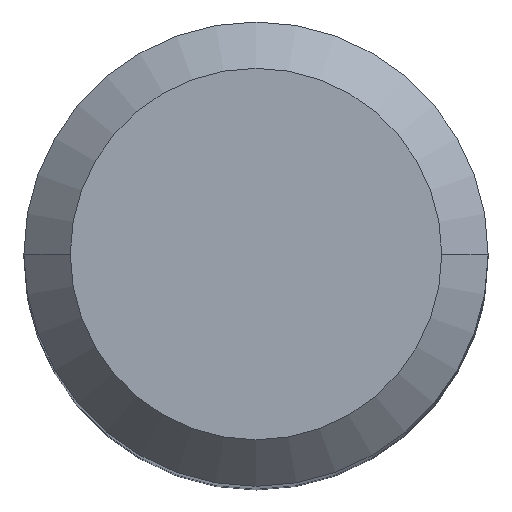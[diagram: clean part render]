
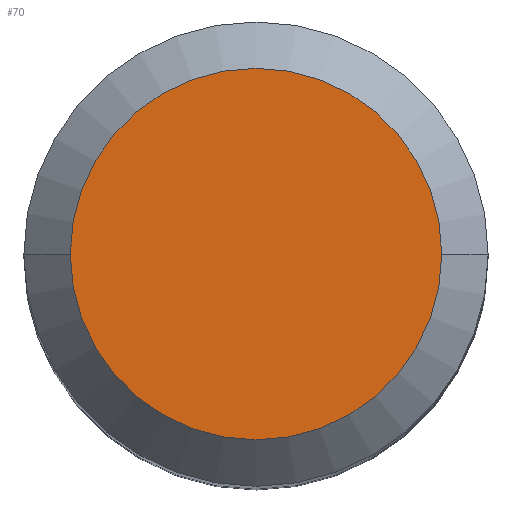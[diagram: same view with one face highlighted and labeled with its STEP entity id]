
A CAD part, top view. The second image highlights one B-rep face of the part: STEP entity #70.
In plain terms, the highlighted planar face has unit normal (0, 0, 1).
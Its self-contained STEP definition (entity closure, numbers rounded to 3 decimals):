
#15 = CARTESIAN_POINT ( 'NONE',  ( 0., 0., 0. ) ) ;
#18 = DIRECTION ( 'NONE',  ( 0., 0., 1. ) ) ;
#60 = CARTESIAN_POINT ( 'NONE',  ( 0., 0., 0. ) ) ;
#62 = CIRCLE ( 'NONE', #345, 6.4 ) ;
#68 = AXIS2_PLACEMENT_3D ( 'NONE', #60, #161, #88 ) ;
#70 = ADVANCED_FACE ( 'NONE', ( #329 ), #73, .T. ) ;
#73 = PLANE ( 'NONE',  #351 ) ;
#77 = DIRECTION ( 'NONE',  ( -1., 0., 0. ) ) ;
#78 = VERTEX_POINT ( 'NONE', #368 ) ;
#85 = ORIENTED_EDGE ( 'NONE', *, *, #217, .F. ) ;
#88 = DIRECTION ( 'NONE',  ( -1., 0., 0. ) ) ;
#108 = EDGE_CURVE ( 'NONE', #224, #78, #275, .T. ) ;
#138 = ORIENTED_EDGE ( 'NONE', *, *, #108, .F. ) ;
#161 = DIRECTION ( 'NONE',  ( 0., 0., -1. ) ) ;
#205 = CARTESIAN_POINT ( 'NONE',  ( 6.4, 0., 0. ) ) ;
#217 = EDGE_CURVE ( 'NONE', #78, #224, #62, .T. ) ;
#224 = VERTEX_POINT ( 'NONE', #205 ) ;
#235 = DIRECTION ( 'NONE',  ( 0., 0., -1. ) ) ;
#275 = CIRCLE ( 'NONE', #68, 6.4 ) ;
#329 = FACE_OUTER_BOUND ( 'NONE', #366, .T. ) ;
#345 = AXIS2_PLACEMENT_3D ( 'NONE', #15, #235, #77 ) ;
#351 = AXIS2_PLACEMENT_3D ( 'NONE', #403, #18, #400 ) ;
#366 = EDGE_LOOP ( 'NONE', ( #85, #138 ) ) ;
#368 = CARTESIAN_POINT ( 'NONE',  ( -6.4, 0., 0. ) ) ;
#400 = DIRECTION ( 'NONE',  ( 1., 0., 0. ) ) ;
#403 = CARTESIAN_POINT ( 'NONE',  ( 0., 6.4, 0. ) ) ;
